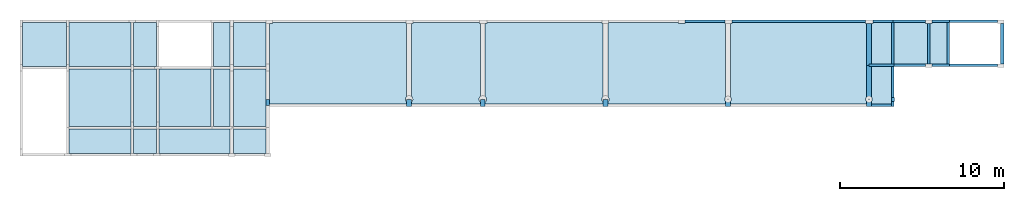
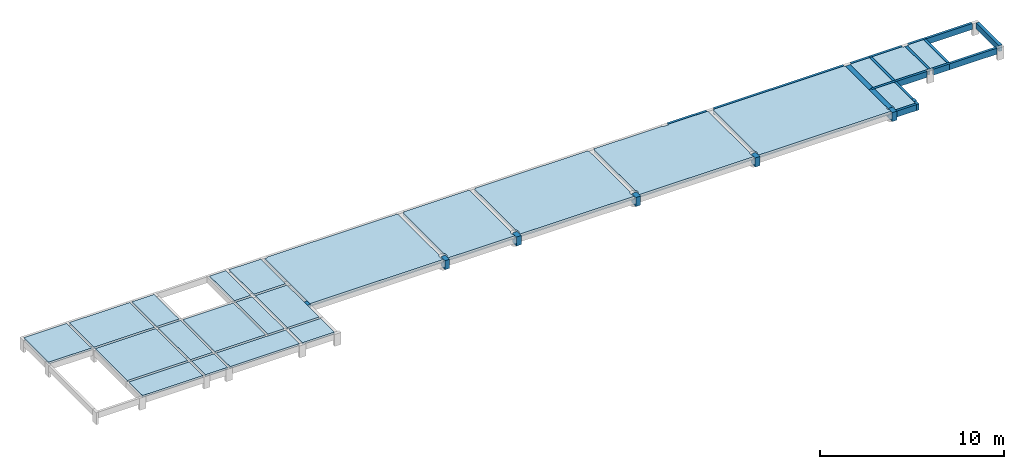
# One storey, part 2 of 2: 26 beams, 23 slabs.
"""IFC2X3 building model written with IfcOpenShell, lengths in centimetres."""

from ifc_helpers import new_model, si_unit, derived_unit, frame, origin, origin_with_axes, origin_2d_with_axis, place, context, project, spatial, polyline, rectangle, outline, extrude, clip, halfspace, material, element, save


model = new_model("IFC2X3")

# Units and contexts
model_context = context("Model", 3, precision=1e-05, world=origin_with_axes(), identifier="Body")
ifc_project = project(units=[si_unit("LENGTHUNIT", "METRE", prefix="CENTI"), si_unit("VOLUMEUNIT", "CUBIC_METRE"), si_unit("AREAUNIT", "SQUARE_METRE"), si_unit("POWERUNIT", "WATT"), si_unit("LUMINOUSFLUXUNIT", "LUMEN"), si_unit("ELECTRICCURRENTUNIT", "AMPERE"), si_unit("PRESSUREUNIT", "PASCAL", prefix="KILO"), si_unit("MASSUNIT", "GRAM", prefix="KILO"), si_unit("PLANEANGLEUNIT", "RADIAN"), derived_unit("VOLUMETRICFLOWRATEUNIT", [(si_unit("LENGTHUNIT", "METRE"), 3), (si_unit("TIMEUNIT", "SECOND"), -1)])], contexts=[model_context])

# Site, building, storey
site_placement = place(None, origin_with_axes())
site = spatial("IfcSite", under=ifc_project, at=site_placement)
building_placement = place(site_placement, origin())
building = spatial("IfcBuilding", under=site, at=building_placement)
placement = place(building_placement, origin_with_axes())
storey_placement = place(placement, frame((0.0, 0.0, 80.0), z_axis=(0.0, 0.0, 1.0), x_axis=(1.0, 0.0, 0.0)))
storey = spatial("IfcBuildingStorey", under=building, at=storey_placement, Name="02. Térreo", CompositionType="ELEMENT", Elevation=80.0)

# Beams
ifc_material = material(Name="Concreto")
beam_1_placement = place(storey_placement, frame((-225.46, -777.785, 0.0), z_axis=(0.0, 0.0, 1.0), x_axis=(1.0, 0.0, 0.0)))
element("IfcBeam", 1, at=beam_1_placement, inside=storey, material=ifc_material, Name="V19", context=model_context, shape_type="SolidModel", body=[
    extrude(rectangle(XDim=20.0, YDim=40.0, at=origin_2d_with_axis()), frame((0.0, -18.825, -20.0), z_axis=(0.0, 1.0, 0.0), x_axis=(1.0, 0.0, 0.0)), (0.0, 0.0, 1.0), 37.65),
])
beam_2_placement = place(storey_placement, frame((3021.54, -281.61, 0.0), z_axis=(0.0, 0.0, 1.0), x_axis=(1.0, 0.0, 0.0)))
element("IfcBeam", 2, at=beam_2_placement, inside=storey, material=ifc_material, Name="V2", context=model_context, shape_type="SolidModel", body=[
    extrude(rectangle(XDim=15.0, YDim=40.0, at=origin_2d_with_axis()), frame((-408.0, 0.0, -20.0), z_axis=(1.0, 0.0, 0.0), x_axis=(0.0, 1.0, 0.0)), (0.0, 0.0, 1.0), 816.0),
])
beam_3_placement = place(storey_placement, frame((2447.04, -281.61, 0.0), z_axis=(0.0, 0.0, 1.0), x_axis=(1.0, 0.0, 0.0)))
element("IfcBeam", 3, at=beam_3_placement, inside=storey, material=ifc_material, Name="V2", context=model_context, shape_type="SolidModel", body=[
    extrude(rectangle(XDim=15.0, YDim=40.0, at=origin_2d_with_axis()), frame((-121.5, 0.0, -20.0), z_axis=(1.0, 0.0, 0.0), x_axis=(0.0, 1.0, 0.0)), (0.0, 0.0, 1.0), 243.0),
])
for number, where, z_axis, x_axis, name in (
    (4, (638.67, -781.535, 0.0), (0.0, 0.0, 1.0), (1.0, 0.0, 0.0), "V21"),
    (5, (1088.67, -781.535, 0.0), (0.0, 0.0, 1.0), (1.0, 0.0, 0.0), "V22"),
    (6, (1838.67, -781.535, 0.0), (0.0, 0.0, 1.0), (1.0, 0.0, 0.0), "V23"),
    (7, (2588.67, -781.535, 0.0), (0.0, 0.0, 1.0), (1.0, 0.0, 0.0), "V24"),
    (8, (3449.67, -781.535, 0.0), (0.0, 0.0, 1.0), (1.0, 0.0, 0.0), "V25"),
):
    element("IfcBeam", number, at=place(storey_placement, frame(where, z_axis=z_axis, x_axis=x_axis)), inside=storey, material=ifc_material, Name=name, context=model_context, shape_type="SolidModel", body=[
        extrude(rectangle(XDim=30.0, YDim=60.0, at=origin_2d_with_axis()), frame((0.0, -22.575, -30.0), z_axis=(0.0, 1.0, 0.0), x_axis=(1.0, 0.0, 0.0)), (0.0, 0.0, 1.0), 45.15),
    ])
beam_4_placement = place(storey_placement, frame((3449.57, -422.8603271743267, 0.0), z_axis=(0.0, 0.0, 1.0), x_axis=(1.0, 0.0, 0.0)))
element("IfcBeam", 9, at=beam_4_placement, inside=storey, material=ifc_material, Name="V25", context=model_context, shape_type="SolidModel", body=[
    extrude(rectangle(XDim=30.0, YDim=60.0, at=origin_2d_with_axis()), frame((0.03, -128.75032717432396, -30.0), z_axis=(-0.000233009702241, 1.0, 0.0), x_axis=(1.0, 0.000233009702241, 0.0)), (0.0, 0.0, 1.0), 257.5006613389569),
])
beam_5_placement = place(storey_placement, frame((3449.6332024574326, -655.2846734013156, 0.0), z_axis=(0.0, 0.0, 1.0), x_axis=(1.0, 0.0, 0.0)))
element("IfcBeam", 10, at=beam_5_placement, inside=storey, material=ifc_material, Name="V25", context=model_context, shape_type="SolidModel", body=[
    extrude(rectangle(XDim=30.0, YDim=60.0, at=origin_2d_with_axis()), frame((0.033202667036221, -103.67532774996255, -30.0), z_axis=(-0.000320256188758, 1.0, 0.0), x_axis=(1.0, 0.000320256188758, 0.0)), (0.0, 0.0, 1.0), 207.35066613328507),
])
beam_6_placement = place(storey_placement, frame((3596.04, -659.035, 0.0), z_axis=(0.0, 0.0, 1.0), x_axis=(1.0, 0.0, 0.0)))
element("IfcBeam", 11, at=beam_6_placement, inside=storey, material=ifc_material, Name="V26", context=model_context, shape_type="SolidModel", body=[
    extrude(rectangle(XDim=15.0, YDim=40.0, at=origin_2d_with_axis()), frame((0.0, -99.925, -20.0), z_axis=(0.0, 1.0, 0.0), x_axis=(1.0, 0.0, 0.0)), (0.0, 0.0, 1.0), 199.85),
])
beam_7_placement = place(storey_placement, frame((3596.04, -787.785, 0.0), z_axis=(0.0, 0.0, 1.0), x_axis=(1.0, 0.0, 0.0)))
element("IfcBeam", 12, at=beam_7_placement, inside=storey, material=ifc_material, Name="V26", context=model_context, shape_type="SolidModel", body=[
    extrude(rectangle(XDim=15.0, YDim=40.0, at=origin_2d_with_axis()), frame((0.0, -16.325, -20.0), z_axis=(0.0, 1.0, 0.0), x_axis=(1.0, 0.0, 0.0)), (0.0, 0.0, 1.0), 32.65),
])
beam_8_placement = place(storey_placement, frame((3596.04, -416.61, 0.0), z_axis=(0.0, 0.0, 1.0), x_axis=(1.0, 0.0, 0.0)))
element("IfcBeam", 13, at=beam_8_placement, inside=storey, material=ifc_material, Name="V26", context=model_context, shape_type="SolidModel", body=[
    extrude(rectangle(XDim=15.0, YDim=40.0, at=origin_2d_with_axis()), frame((0.0, -135.0, -20.0), z_axis=(0.0, 1.0, 0.0), x_axis=(1.0, 0.0, 0.0)), (0.0, 0.0, 1.0), 270.0),
])
beam_9_placement = place(storey_placement, frame((3816.04, -419.11, 0.0), z_axis=(0.0, 0.0, 1.0), x_axis=(1.0, 0.0, 0.0)))
element("IfcBeam", 14, at=beam_9_placement, inside=storey, material=ifc_material, Name="V27", context=model_context, shape_type="SolidModel", body=[
    extrude(rectangle(XDim=15.0, YDim=40.0, at=origin_2d_with_axis()), frame((0.0, -125.0, -20.0), z_axis=(0.0, 1.0, 0.0), x_axis=(1.0, 0.0, 0.0)), (0.0, 0.0, 1.0), 250.0),
])
beam_10_placement = place(storey_placement, frame((3936.04, -416.3833299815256, 0.0), z_axis=(0.0, 0.0, 1.0), x_axis=(1.0, 0.0, 0.0)))
element("IfcBeam", 15, at=beam_10_placement, inside=storey, material=ifc_material, Name="V28", context=model_context, shape_type="Clipping", body=[
    clip(extrude(rectangle(XDim=15.0, YDim=40.0, at=origin_2d_with_axis()), frame((0.0, -127.27332998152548, -20.0), z_axis=(0.0, 1.0, 0.0), x_axis=(1.0, 0.0, 0.0)), (0.0, 0.0, 1.0), 254.54665996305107), halfspace(frame((-7.5, -127.27332998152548, 0.0), z_axis=(-0.004899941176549, 1.0, 0.0), x_axis=(0.0, 0.0, -0.004899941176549)), True)),
])
beam_11_placement = place(storey_placement, frame((4265.54, -419.11, 0.0), z_axis=(0.0, 0.0, 1.0), x_axis=(1.0, 0.0, 0.0)))
element("IfcBeam", 16, at=beam_11_placement, inside=storey, material=ifc_material, Name="V29", context=model_context, shape_type="SolidModel", body=[
    extrude(rectangle(XDim=20.0, YDim=40.0, at=origin_2d_with_axis()), frame((0.0, -125.0, -20.0), z_axis=(0.0, 1.0, 0.0), x_axis=(1.0, 0.0, 0.0)), (0.0, 0.0, 1.0), 250.0),
])
beam_12_placement = place(storey_placement, frame((4085.79, -281.61, 0.0), z_axis=(0.0, 0.0, 1.0), x_axis=(1.0, 0.0, 0.0)))
element("IfcBeam", 17, at=beam_12_placement, inside=storey, material=ifc_material, Name="V3", context=model_context, shape_type="SolidModel", body=[
    extrude(rectangle(XDim=15.0, YDim=40.0, at=origin_2d_with_axis()), frame((-149.75, 0.0, -20.0), z_axis=(1.0, 0.0, 0.0), x_axis=(0.0, 1.0, 0.0)), (0.0, 0.0, 1.0), 299.5),
])
beam_13_placement = place(storey_placement, frame((3535.29, -281.61, 0.0), z_axis=(0.0, 0.0, 1.0), x_axis=(1.0, 0.0, 0.0)))
element("IfcBeam", 18, at=beam_13_placement, inside=storey, material=ifc_material, Name="V3", context=model_context, shape_type="SolidModel", body=[
    extrude(rectangle(XDim=15.0, YDim=40.0, at=origin_2d_with_axis()), frame((-60.75, 0.0, -20.0), z_axis=(1.0, 0.0, 0.0), x_axis=(0.0, 1.0, 0.0)), (0.0, 0.0, 1.0), 121.5),
])
beam_14_placement = place(storey_placement, frame((3889.79, -281.61, 0.0), z_axis=(0.0, 0.0, 1.0), x_axis=(1.0, 0.0, 0.0)))
element("IfcBeam", 19, at=beam_14_placement, inside=storey, material=ifc_material, Name="V3", context=model_context, shape_type="SolidModel", body=[
    extrude(rectangle(XDim=15.0, YDim=40.0, at=origin_2d_with_axis()), frame((-53.75, 0.0, -20.0), z_axis=(1.0, 0.0, 0.0), x_axis=(0.0, 1.0, 0.0)), (0.0, 0.0, 1.0), 107.5),
])
beam_15_placement = place(storey_placement, frame((3696.04, -281.61, 0.0), z_axis=(0.0, 0.0, 1.0), x_axis=(1.0, 0.0, 0.0)))
element("IfcBeam", 20, at=beam_15_placement, inside=storey, material=ifc_material, Name="V3", context=model_context, shape_type="SolidModel", body=[
    extrude(rectangle(XDim=15.0, YDim=40.0, at=origin_2d_with_axis()), frame((-100.0, 0.0, -20.0), z_axis=(1.0, 0.0, 0.0), x_axis=(0.0, 1.0, 0.0)), (0.0, 0.0, 1.0), 200.0),
])
beam_16_placement = place(storey_placement, frame((3598.04, -758.96, 0.0), z_axis=(0.0, 0.0, 1.0), x_axis=(1.0, 0.0, 0.0)))
element("IfcBeam", 21, at=beam_16_placement, inside=storey, material=ifc_material, Name="V33", context=model_context, shape_type="SolidModel", body=[
    extrude(rectangle(XDim=25.0, YDim=60.0, at=origin_2d_with_axis()), frame((-9.5, 0.0, -30.0), z_axis=(1.0, 0.0, 0.0), x_axis=(0.0, 1.0, 0.0)), (0.0, 0.0, 1.0), 19.0),
])
beam_17_placement = place(storey_placement, frame((3696.04, -551.61, 0.0), z_axis=(0.0, 0.0, 1.0), x_axis=(1.0, 0.0, 0.0)))
element("IfcBeam", 22, at=beam_17_placement, inside=storey, material=ifc_material, Name="V5", context=model_context, shape_type="SolidModel", body=[
    extrude(rectangle(XDim=15.0, YDim=40.0, at=origin_2d_with_axis()), frame((-100.0, 0.0, -20.0), z_axis=(1.0, 0.0, 0.0), x_axis=(0.0, 1.0, 0.0)), (0.0, 0.0, 1.0), 200.0),
])
beam_18_placement = place(storey_placement, frame((3526.57, -551.61, 0.0), z_axis=(0.0, 0.0, 1.0), x_axis=(1.0, 0.0, 0.0)))
element("IfcBeam", 23, at=beam_18_placement, inside=storey, material=ifc_material, Name="V5", context=model_context, shape_type="SolidModel", body=[
    extrude(rectangle(XDim=15.0, YDim=40.0, at=origin_2d_with_axis()), frame((-76.97, 0.0, -20.0), z_axis=(1.0, 0.0, 0.0), x_axis=(0.0, 1.0, 0.0)), (0.0, 0.0, 1.0), 153.94),
])
beam_19_placement = place(storey_placement, frame((3889.753250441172, -551.346625, 0.0), z_axis=(0.0, 0.0, 1.0), x_axis=(1.0, 0.0, 0.0)))
element("IfcBeam", 24, at=beam_19_placement, inside=storey, material=ifc_material, Name="V6", context=model_context, shape_type="Clipping", body=[
    clip(extrude(rectangle(XDim=15.0, YDim=40.0, at=origin_2d_with_axis()), frame((-53.75, -0.263555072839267, -20.0), z_axis=(1.0, 0.004899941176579, 0.0), x_axis=(-0.004899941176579, 1.0, 0.0)), (0.0, 0.0, 1.0), 107.57479052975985), halfspace(frame((53.78674955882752, 7.763465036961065, -40.0), z_axis=(-1.0, 0.0, 0.0), x_axis=(0.0, 0.0, -0.004899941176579)), True)),
])
beam_20_placement = place(storey_placement, frame((4085.7961352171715, -551.365010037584, 0.0), z_axis=(0.0, 0.0, 1.0), x_axis=(1.0, 0.0, 0.0)))
element("IfcBeam", 25, at=beam_20_placement, inside=storey, material=ifc_material, Name="V6", context=model_context, shape_type="SolidModel", body=[
    extrude(rectangle(XDim=15.0, YDim=40.0, at=origin_2d_with_axis()), frame((-149.75613521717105, 0.245010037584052, -20.0), z_axis=(1.0, -0.001636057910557, 0.0), x_axis=(0.001636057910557, 1.0, 0.0)), (0.0, 0.0, 1.0), 299.51267128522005),
])
beam_21_placement = place(storey_placement, frame((3526.605, -796.61, 0.0), z_axis=(0.0, 0.0, 1.0), x_axis=(1.0, 0.0, 0.0)))
element("IfcBeam", 26, at=beam_21_placement, inside=storey, material=ifc_material, Name="V8", context=model_context, shape_type="SolidModel", body=[
    extrude(rectangle(XDim=15.0, YDim=40.0, at=origin_2d_with_axis()), frame((-61.935, 0.0, -20.0), z_axis=(1.0, 0.0, 0.0), x_axis=(0.0, 1.0, 0.0)), (0.0, 0.0, 1.0), 123.87),
])

# Slabs
slab_1_placement = place(storey_placement, frame((-1590.46, -424.11, 0.0), z_axis=(0.0, 0.0, 1.0), x_axis=(1.0, 0.0, 0.0)))
element("IfcSlab", 27, at=slab_1_placement, inside=storey, material=ifc_material, Name="L1", PredefinedType="FLOOR", context=model_context, shape_type="SolidModel", body=[
    extrude(outline(polyline([(134.999, -135.0), (135.0, 135.0), (-134.999, 135.0), (-135.0, -134.999), (134.999, -135.0), (134.999, -135.0)])), frame((0.0, 0.0, -12.0), z_axis=(0.0, 0.0, 1.0), x_axis=(1.0, 0.0, 0.0)), (0.0, 0.0, 1.0), 12.0),
])
slab_2_placement = place(storey_placement, frame((3019.1705, -539.11, 0.0), z_axis=(0.0, 0.0, 1.0), x_axis=(1.0, 0.0, 0.0)))
element("IfcSlab", 28, at=slab_2_placement, inside=storey, material=ifc_material, Name="L10", PredefinedType="FLOOR", context=model_context, shape_type="SolidModel", body=[
    extrude(outline(polyline([(415.5, -232.87), (413.179, -229.85), (411.179, -225.03), (410.5, -219.85), (411.179, -214.669), (413.179, -209.85), (415.489, -206.843), (415.429, -12.5), (415.37, 244.999), (410.369, 245.0), (410.369, 250.0), (-405.63, 249.999), (-405.63, 245.0), (-415.499, 245.0), (-415.499, -206.829), (-413.18, -209.85), (-411.18, -214.669), (-410.499, -219.85), (-411.18, -225.03), (-413.18, -229.85), (-415.499, -232.87), (-415.499, -249.999), (415.499, -250.0), (415.5, -232.87), (415.5, -232.87)])), frame((-0.0005, 0.0, -20.0), z_axis=(0.0, 0.0, 1.0), x_axis=(1.0, 0.0, 0.0)), (0.0, 0.0, 1.0), 20.0),
])
slab_3_placement = place(storey_placement, frame((3526.5405, -416.6105, 0.0), z_axis=(0.0, 0.0, 1.0), x_axis=(1.0, 0.0, 0.0)))
element("IfcSlab", 29, at=slab_3_placement, inside=storey, material=ifc_material, Name="L11", PredefinedType="FLOOR", context=model_context, shape_type="SolidModel", body=[
    extrude(outline(polyline([(61.99865451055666, 127.499), (-51.999345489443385, 127.499), (-52.00034548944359, 122.499), (-61.999345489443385, 122.499), (-61.94134548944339, -127.5), (61.99965451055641, -127.5), (61.99865451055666, 127.499), (61.99865451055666, 127.499)])), frame((-0.000154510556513, 0.0005, -20.0), z_axis=(0.0, 0.0, 1.0), x_axis=(1.0, 0.0, 0.0)), (0.0, 0.0, 1.0), 20.0),
])
slab_4_placement = place(storey_placement, frame((3706.0395, -416.61, 0.0), z_axis=(0.0, 0.0, 1.0), x_axis=(1.0, 0.0, 0.0)))
element("IfcSlab", 30, at=slab_4_placement, inside=storey, material=ifc_material, Name="L12", PredefinedType="FLOOR", context=model_context, shape_type="SolidModel", body=[
    extrude(outline(polyline([(102.499, -127.499), (102.499, 122.5), (89.999, 122.499), (90.0, 127.5), (-102.5, 127.499), (-102.5, -127.5), (102.499, -127.499), (102.499, -127.499)])), frame((0.0005, 0.0, -20.0), z_axis=(0.0, 0.0, 1.0), x_axis=(1.0, 0.0, 0.0)), (0.0, 0.0, 1.0), 20.0),
])
slab_5_placement = place(storey_placement, frame((3876.04, -416.61, 0.0), z_axis=(0.0, 0.0, 1.0), x_axis=(1.0, 0.0, 0.0)))
element("IfcSlab", 31, at=slab_5_placement, inside=storey, material=ifc_material, Name="L13", PredefinedType="FLOOR", context=model_context, shape_type="SolidModel", body=[
    extrude(outline(polyline([(52.5, -127.046), (52.5, 127.5), (-40.0, 127.499), (-40.0, 122.499), (-52.5, 122.5), (-52.5, -127.499), (-40.0, -127.5), (52.5, -127.046), (52.5, -127.046)])), frame((0.0, 0.0, -12.0), z_axis=(0.0, 0.0, 1.0), x_axis=(1.0, 0.0, 0.0)), (0.0, 0.0, 1.0), 12.0),
])
slab_6_placement = place(storey_placement, frame((-1250.46, -749.11, 0.0), z_axis=(0.0, 0.0, 1.0), x_axis=(1.0, 0.0, 0.0)))
element("IfcSlab", 32, at=slab_6_placement, inside=storey, material=ifc_material, Name="L14", PredefinedType="FLOOR", context=model_context, shape_type="SolidModel", body=[
    extrude(outline(polyline([(190.0, -175.0), (189.999, 174.999), (-190.0, 175.0), (-190.0, -175.0), (190.0, -175.0), (190.0, -175.0)])), frame((0.0, 0.0, -12.0), z_axis=(0.0, 0.0, 1.0), x_axis=(1.0, 0.0, 0.0)), (0.0, 0.0, 1.0), 12.0),
])
slab_7_placement = place(storey_placement, frame((-975.4605, -749.1095, 0.0), z_axis=(0.0, 0.0, 1.0), x_axis=(1.0, 0.0, 0.0)))
element("IfcSlab", 33, at=slab_7_placement, inside=storey, material=ifc_material, Name="L15", PredefinedType="FLOOR", context=model_context, shape_type="SolidModel", body=[
    extrude(outline(polyline([(69.999, 174.999), (-70.0, 175.0), (-70.0, -174.999), (69.999, -174.999), (69.999, 174.999), (69.999, 174.999)])), frame((0.0005, -0.0005, -12.0), z_axis=(0.0, 0.0, 1.0), x_axis=(1.0, 0.0, 0.0)), (0.0, 0.0, 1.0), 12.0),
])
slab_8_placement = place(storey_placement, frame((-731.7105, -749.11, 0.0), z_axis=(0.0, 0.0, 1.0), x_axis=(1.0, 0.0, 0.0)))
element("IfcSlab", 34, at=slab_8_placement, inside=storey, material=ifc_material, Name="L16", PredefinedType="FLOOR", context=model_context, shape_type="SolidModel", body=[
    extrude(outline(polyline([(158.749, 175.0), (-158.75, 174.999), (-158.75, -175.0), (158.749, -175.0), (158.749, 175.0), (158.749, 175.0)])), frame((0.0005, 0.0, -12.0), z_axis=(0.0, 0.0, 1.0), x_axis=(1.0, 0.0, 0.0)), (0.0, 0.0, 1.0), 12.0),
])
slab_9_placement = place(storey_placement, frame((-506.7095, -749.1095, 0.0), z_axis=(0.0, 0.0, 1.0), x_axis=(1.0, 0.0, 0.0)))
element("IfcSlab", 35, at=slab_9_placement, inside=storey, material=ifc_material, Name="L17", PredefinedType="FLOOR", context=model_context, shape_type="SolidModel", body=[
    extrude(outline(polyline([(51.249, -174.999), (51.25, 175.0), (-51.249, 175.0), (-51.249, -174.999), (51.249, -174.999), (51.249, -174.999)])), frame((-0.0005, -0.0005, -12.0), z_axis=(0.0, 0.0, 1.0), x_axis=(1.0, 0.0, 0.0)), (0.0, 0.0, 1.0), 12.0),
])
slab_10_placement = place(storey_placement, frame((-335.4595, -749.11, 0.0), z_axis=(0.0, 0.0, 1.0), x_axis=(1.0, 0.0, 0.0)))
element("IfcSlab", 36, at=slab_10_placement, inside=storey, material=ifc_material, Name="L18", PredefinedType="FLOOR", context=model_context, shape_type="SolidModel", body=[
    extrude(outline(polyline([(99.999, -175.0), (100.0, 175.0), (-99.999, 175.0), (-99.999, -175.0), (99.999, -175.0), (99.999, -175.0)])), frame((-0.0005, 0.0, -12.0), z_axis=(0.0, 0.0, 1.0), x_axis=(1.0, 0.0, 0.0)), (0.0, 0.0, 1.0), 12.0),
])
slab_11_placement = place(storey_placement, frame((3526.5715, -674.11, 0.0), z_axis=(0.0, 0.0, 1.0), x_axis=(1.0, 0.0, 0.0)))
element("IfcSlab", 37, at=slab_11_placement, inside=storey, material=ifc_material, Name="L19", PredefinedType="FLOOR", context=model_context, shape_type="SolidModel", body=[
    extrude(outline(polyline([(61.9688597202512, -114.999), (61.967859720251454, 114.999), (-61.968140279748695, 115.0), (-61.911140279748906, -71.815), (-59.58114027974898, -74.85), (-57.58114027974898, -79.669), (-56.90014027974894, -84.85), (-57.58114027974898, -90.029), (-59.58114027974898, -94.85), (-61.90114027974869, -97.87), (-61.90114027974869, -115.0), (61.9688597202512, -114.999), (61.9688597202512, -114.999)])), frame((-0.000359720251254, 0.0, -13.0), z_axis=(0.0, 0.0, 1.0), x_axis=(1.0, 0.0, 0.0)), (0.0, 0.0, 1.0), 13.0),
])
slab_12_placement = place(storey_placement, frame((-1250.4605, -424.1105, 0.0), z_axis=(0.0, 0.0, 1.0), x_axis=(1.0, 0.0, 0.0)))
element("IfcSlab", 38, at=slab_12_placement, inside=storey, material=ifc_material, Name="L2", PredefinedType="FLOOR", context=model_context, shape_type="SolidModel", body=[
    extrude(outline(polyline([(189.999, 134.53), (177.499, 134.53), (177.5, 134.999), (-190.0, 134.999), (-189.999, -135.0), (189.999, -135.0), (189.999, 134.53), (189.999, 134.53)])), frame((0.0005, 0.0005, -12.0), z_axis=(0.0, 0.0, 1.0), x_axis=(1.0, 0.0, 0.0)), (0.0, 0.0, 1.0), 12.0),
])
slab_13_placement = place(storey_placement, frame((-1250.4605, -1014.1105, 0.0), z_axis=(0.0, 0.0, 1.0), x_axis=(1.0, 0.0, 0.0)))
element("IfcSlab", 39, at=slab_13_placement, inside=storey, material=ifc_material, Name="L26", PredefinedType="FLOOR", context=model_context, shape_type="SolidModel", body=[
    extrude(outline(polyline([(-190.0, -75.0), (189.999, -74.989), (189.999, 74.999), (-190.0, 74.999), (-190.0, -75.0), (-190.0, -75.0)])), frame((0.0005, 0.0005, -12.0), z_axis=(0.0, 0.0, 1.0), x_axis=(1.0, 0.0, 0.0)), (0.0, 0.0, 1.0), 12.0),
])
slab_14_placement = place(storey_placement, frame((-975.46, -1014.105, 0.0), z_axis=(0.0, 0.0, 1.0), x_axis=(1.0, 0.0, 0.0)))
element("IfcSlab", 40, at=slab_14_placement, inside=storey, material=ifc_material, Name="L27", PredefinedType="FLOOR", context=model_context, shape_type="SolidModel", body=[
    extrude(outline(polyline([(69.999, 74.994), (-70.0, 74.994), (-69.999, -74.994), (70.0, -74.994), (69.999, 74.994), (69.999, 74.994)])), frame((0.0, 0.0, -12.0), z_axis=(0.0, 0.0, 1.0), x_axis=(1.0, 0.0, 0.0)), (0.0, 0.0, 1.0), 12.0),
])
slab_15_placement = place(storey_placement, frame((-672.96, -1014.105, 0.0), z_axis=(0.0, 0.0, 1.0), x_axis=(1.0, 0.0, 0.0)))
element("IfcSlab", 41, at=slab_15_placement, inside=storey, material=ifc_material, Name="L28", PredefinedType="FLOOR", context=model_context, shape_type="SolidModel", body=[
    extrude(outline(polyline([(217.5, 74.994), (-217.5, 74.994), (-217.499, -74.994), (217.5, -74.994), (217.5, 74.994), (217.5, 74.994)])), frame((0.0, 0.0, -12.0), z_axis=(0.0, 0.0, 1.0), x_axis=(1.0, 0.0, 0.0)), (0.0, 0.0, 1.0), 12.0),
])
slab_16_placement = place(storey_placement, frame((-335.4595, -1014.1045, 0.0), z_axis=(0.0, 0.0, 1.0), x_axis=(1.0, 0.0, 0.0)))
element("IfcSlab", 42, at=slab_16_placement, inside=storey, material=ifc_material, Name="L29", PredefinedType="FLOOR", context=model_context, shape_type="SolidModel", body=[
    extrude(outline(polyline([(100.0, 74.995), (-99.999, 74.995), (-99.999, -74.994), (100.0, -74.994), (100.0, 74.995), (100.0, 74.995)])), frame((-0.0005, -0.0005, -12.0), z_axis=(0.0, 0.0, 1.0), x_axis=(1.0, 0.0, 0.0)), (0.0, 0.0, 1.0), 12.0),
])
slab_17_placement = place(storey_placement, frame((-975.46, -424.11, 0.0), z_axis=(0.0, 0.0, 1.0), x_axis=(1.0, 0.0, 0.0)))
element("IfcSlab", 43, at=slab_17_placement, inside=storey, material=ifc_material, Name="L3", PredefinedType="FLOOR", context=model_context, shape_type="SolidModel", body=[
    extrude(outline(polyline([(69.999, -134.999), (70.0, 134.999), (-57.5, 134.999), (-57.5, 134.53), (-70.0, 134.53), (-69.999, -134.999), (69.999, -134.999), (69.999, -134.999)])), frame((0.0, 0.0, -12.0), z_axis=(0.0, 0.0, 1.0), x_axis=(1.0, 0.0, 0.0)), (0.0, 0.0, 1.0), 12.0),
])
slab_18_placement = place(storey_placement, frame((-506.71, -424.11, 0.0), z_axis=(0.0, 0.0, 1.0), x_axis=(1.0, 0.0, 0.0)))
element("IfcSlab", 44, at=slab_18_placement, inside=storey, material=ifc_material, Name="L4", PredefinedType="FLOOR", context=model_context, shape_type="SolidModel", body=[
    extrude(outline(polyline([(51.25, -135.0), (51.249, 135.0), (-51.25, 135.0), (-51.25, -135.0), (51.25, -135.0), (51.25, -135.0)])), frame((0.0, 0.0, -12.0), z_axis=(0.0, 0.0, 1.0), x_axis=(1.0, 0.0, 0.0)), (0.0, 0.0, 1.0), 12.0),
])
slab_19_placement = place(storey_placement, frame((-335.46, -424.11, 0.0), z_axis=(0.0, 0.0, 1.0), x_axis=(1.0, 0.0, 0.0)))
element("IfcSlab", 45, at=slab_19_placement, inside=storey, material=ifc_material, Name="L5", PredefinedType="FLOOR", context=model_context, shape_type="SolidModel", body=[
    extrude(outline(polyline([(100.0, -135.0), (100.0, 135.0), (-99.999, 135.0), (-100.0, -135.0), (100.0, -135.0), (100.0, -135.0)])), frame((0.0, 0.0, -12.0), z_axis=(0.0, 0.0, 1.0), x_axis=(1.0, 0.0, 0.0)), (0.0, 0.0, 1.0), 12.0),
])
slab_20_placement = place(storey_placement, frame((204.1045, -539.11, 0.0), z_axis=(0.0, 0.0, 1.0), x_axis=(1.0, 0.0, 0.0)))
element("IfcSlab", 46, at=slab_20_placement, inside=storey, material=ifc_material, Name="L6", PredefinedType="FLOOR", context=model_context, shape_type="SolidModel", body=[
    extrude(outline(polyline([(419.564, -236.459), (418.655, -235.76), (415.074, -231.1), (412.835, -225.669), (412.064, -219.85), (412.835, -214.03), (415.074, -208.6), (418.655, -203.939), (419.564, -203.24), (419.564, 244.999), (414.434, 245.0), (414.434, 250.0), (-399.564, 250.0), (-399.565, 245.0), (-419.565, 245.0), (-419.564, -250.0), (419.564, -250.0), (419.564, -236.459), (419.564, -236.459)])), frame((0.0005, 0.0, -20.0), z_axis=(0.0, 0.0, 1.0), x_axis=(1.0, 0.0, 0.0)), (0.0, 0.0, 1.0), 20.0),
])
slab_21_placement = place(storey_placement, frame((863.67, -539.1105, 0.0), z_axis=(0.0, 0.0, 1.0), x_axis=(1.0, 0.0, 0.0)))
element("IfcSlab", 47, at=slab_21_placement, inside=storey, material=ifc_material, Name="L7", PredefinedType="FLOOR", context=model_context, shape_type="SolidModel", body=[
    extrude(outline(polyline([(210.0, -236.459), (209.09, -235.76), (205.51, -231.1), (203.27, -225.669), (202.5, -219.85), (203.27, -214.03), (205.51, -208.6), (209.09, -203.939), (210.0, -203.24), (210.0, 244.999), (204.869, 245.0), (204.869, 249.999), (-200.13, 249.999), (-200.13, 245.0), (-210.0, 244.999), (-210.0, -203.24), (-209.089, -203.939), (-205.51, -208.6), (-203.27, -214.03), (-202.5, -219.85), (-203.27, -225.669), (-205.51, -231.1), (-209.089, -235.76), (-209.999, -236.459), (-209.999, -250.0), (210.0, -250.0), (210.0, -236.459), (210.0, -236.459)])), frame((0.0, 0.0005, -20.0), z_axis=(0.0, 0.0, 1.0), x_axis=(1.0, 0.0, 0.0)), (0.0, 0.0, 1.0), 20.0),
])
slab_22_placement = place(storey_placement, frame((1463.67, -539.11, 0.0), z_axis=(0.0, 0.0, 1.0), x_axis=(1.0, 0.0, 0.0)))
element("IfcSlab", 48, at=slab_22_placement, inside=storey, material=ifc_material, Name="L8", PredefinedType="FLOOR", context=model_context, shape_type="SolidModel", body=[
    extrude(outline(polyline([(359.999, -236.459), (359.09, -235.76), (355.51, -231.1), (353.27, -225.669), (352.5, -219.85), (353.27, -214.03), (355.51, -208.6), (359.09, -203.939), (360.0, -203.24), (359.999, 244.999), (354.869, 245.0), (354.869, 250.0), (-350.129, 250.0), (-350.13, 245.0), (-359.999, 244.999), (-359.999, -203.24), (-359.09, -203.939), (-355.509, -208.6), (-353.269, -214.03), (-352.499, -219.85), (-353.269, -225.669), (-355.509, -231.1), (-359.09, -235.76), (-360.0, -236.459), (-360.0, -250.0), (359.999, -250.0), (359.999, -236.459), (359.999, -236.459)])), frame((0.0, 0.0, -20.0), z_axis=(0.0, 0.0, 1.0), x_axis=(1.0, 0.0, 0.0)), (0.0, 0.0, 1.0), 20.0),
])
slab_23_placement = place(storey_placement, frame((2213.6705, -539.11, 0.0), z_axis=(0.0, 0.0, 1.0), x_axis=(1.0, 0.0, 0.0)))
element("IfcSlab", 49, at=slab_23_placement, inside=storey, material=ifc_material, Name="L9", PredefinedType="FLOOR", context=model_context, shape_type="SolidModel", body=[
    extrude(outline(polyline([(359.999, -232.87), (357.679, -229.85), (355.679, -225.03), (355.0, -219.85), (355.679, -214.669), (357.679, -209.85), (360.0, -206.829), (360.0, 245.0), (354.869, 245.0), (354.87, 249.999), (111.87, 250.0), (111.869, 245.0), (71.869, 245.0), (71.87, 250.0), (-355.129, 250.0), (-355.13, 245.0), (-359.999, 244.999), (-359.999, -203.24), (-359.09, -203.939), (-355.509, -208.6), (-353.269, -214.03), (-352.499, -219.85), (-353.269, -225.669), (-355.509, -231.1), (-359.09, -235.76), (-359.999, -236.459), (-359.999, -250.0), (359.999, -250.0), (359.999, -232.87), (359.999, -232.87)])), frame((-0.0005, 0.0, -20.0), z_axis=(0.0, 0.0, 1.0), x_axis=(1.0, 0.0, 0.0)), (0.0, 0.0, 1.0), 20.0),
])

save(model, "model.ifc")
